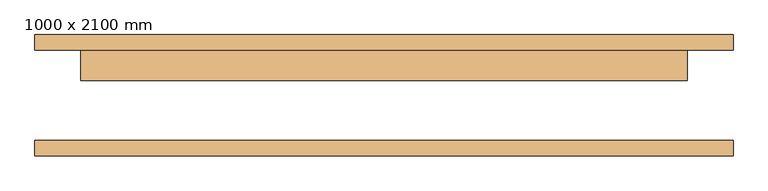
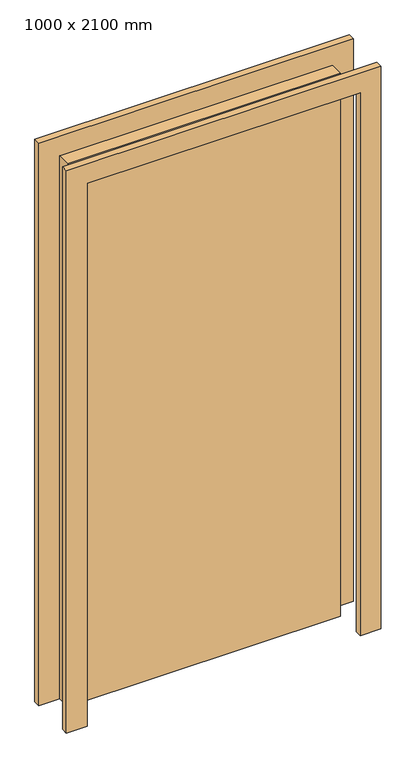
"""IFC4 building model written with IfcOpenShell, lengths in millimetres: door geometry, M_Folha única : 1000 x 2100 mm."""

import ifcopenshell
import ifcopenshell.guid

model = None  # the IFC model being written
_history = None  # IfcOwnerHistory: only IFC2X3 demands one
_inside = {}  # id of a spatial element -> (the spatial element, [elements in it])
_under = {}  # id of a project, library or spatial element -> (it, [spatial elements below it])
_declared = {}  # id of a project -> (the project, [libraries it declares])
_typed = {}  # id of a type object -> (the type object, [elements of that type])
_made_of = {}  # id of a material, layer set ... -> (it, [elements and type objects made of it])


def new_model(schema):
    """Start an empty IFC model of exactly this schema.

    Asked for "IFC4X3", IfcOpenShell would pick the latest addendum, in which some entities
    have other attributes; the version numbers below select the first issue.
    IFC2X3 requires an IfcOwnerHistory on every rooted entity: one is made here for all.
    """
    global model, _history
    if schema == "IFC4X3":
        model = ifcopenshell.file(schema_version=(4, 3, 0, 0))
    else:
        model = ifcopenshell.file(schema=schema)
    _inside.clear()
    _under.clear()
    _declared.clear()
    _typed.clear()
    _made_of.clear()
    _history = None
    if model.schema == "IFC2X3":
        org = make("IfcOrganization", Name="unknown")
        user = make(
            "IfcPersonAndOrganization",
            ThePerson=make("IfcPerson", FamilyName="unknown"),
            TheOrganization=org,
        )
        app = make(
            "IfcApplication",
            ApplicationDeveloper=org,
            Version="unknown",
            ApplicationFullName="unknown",
            ApplicationIdentifier="unknown",
        )
        _history = make(
            "IfcOwnerHistory",
            OwningUser=user,
            OwningApplication=app,
            ChangeAction="ADDED",
            CreationDate=0,
        )
    return model


def make(cls, **values):
    """One entity of the class cls with the attributes given. An attribute that is None is left unset."""
    return model.create_entity(
        cls, **{name: value for name, value in values.items() if value is not None}
    )


def rooted(cls, **values):
    """An entity with a GlobalId (a new one), such as an element, a storey or a relation."""
    return make(cls, GlobalId=ifcopenshell.guid.new(), OwnerHistory=_history, **values)


def si_unit(unit_type, name, prefix=None):
    """IfcSIUnit, for example si_unit("LENGTHUNIT", "METRE", prefix="MILLI")."""
    return make("IfcSIUnit", UnitType=unit_type, Prefix=prefix, Name=name)


def assignment(units):
    """IfcUnitAssignment: the units of a project."""
    return None if units is None else make("IfcUnitAssignment", Units=units)


def point(xyz):
    """IfcCartesianPoint."""
    return None if xyz is None else make("IfcCartesianPoint", Coordinates=xyz)


def direction(xyz):
    """IfcDirection."""
    return None if xyz is None else make("IfcDirection", DirectionRatios=xyz)


def frame(location, z_axis=None, x_axis=None):
    """IfcAxis2Placement3D, a coordinate frame: its origin and axes. An axis left out is left unset."""
    return make(
        "IfcAxis2Placement3D",
        Location=point(location),
        Axis=direction(z_axis),
        RefDirection=direction(x_axis),
    )


def origin():
    """The frame at (0, 0, 0) with its axes left unset."""
    return frame((0.0, 0.0, 0.0))


def origin_with_axes():
    """The frame at (0, 0, 0) with the z axis (0, 0, 1) and the x axis (1, 0, 0) written out."""
    return frame((0.0, 0.0, 0.0), z_axis=(0.0, 0.0, 1.0), x_axis=(1.0, 0.0, 0.0))


def place(relative_to, where):
    """IfcLocalPlacement: puts the frame where relative to a parent placement (None: the world)."""
    return make(
        "IfcLocalPlacement", PlacementRelTo=relative_to, RelativePlacement=where
    )


def context(
    kind, dimensions, precision=None, world=None, true_north=None, identifier=None
):
    """IfcGeometricRepresentationContext, for example the 3D "Model" context."""
    return make(
        "IfcGeometricRepresentationContext",
        ContextIdentifier=identifier,
        ContextType=kind,
        CoordinateSpaceDimension=dimensions,
        Precision=precision,
        WorldCoordinateSystem=world,
        TrueNorth=true_north,
    )


def project(units=None, contexts=None):
    """IfcProject with its units and contexts."""
    return rooted(
        "IfcProject",
        Name="project",
        RepresentationContexts=contexts,
        UnitsInContext=assignment(units),
    )


def spatial(cls, under=None, at=None, **own):
    """A site, building, storey or space (cls), placed at a placement, below another one or the project."""
    s = rooted(cls, ObjectPlacement=at, **own)
    if under is not None:
        _under.setdefault(under.id(), (under, []))[1].append(s)
    return s


def polyline(points):
    """IfcPolyline through the points."""
    return make("IfcPolyline", Points=[point(p) for p in points])


def outline(outer, holes=None, kind="AREA"):
    """IfcArbitraryClosedProfileDef: a profile drawn as a closed curve; with holes, ...WithVoids."""
    if holes is None:
        return make("IfcArbitraryClosedProfileDef", ProfileType=kind, OuterCurve=outer)
    return make(
        "IfcArbitraryProfileDefWithVoids",
        ProfileType=kind,
        OuterCurve=outer,
        InnerCurves=holes,
    )


def extrude(swept, where, along, depth):
    """IfcExtrudedAreaSolid: the profile swept, set in the frame where, extruded along a direction by depth."""
    return make(
        "IfcExtrudedAreaSolid",
        SweptArea=swept,
        Position=where,
        ExtrudedDirection=direction(along),
        Depth=depth,
    )


def shape(context_of_items, identifier, shape_type, items):
    """IfcShapeRepresentation: the items that make up one representation, for example the "Body"."""
    return make(
        "IfcShapeRepresentation",
        ContextOfItems=context_of_items,
        RepresentationIdentifier=identifier,
        RepresentationType=shape_type,
        Items=items,
    )


def source(mapping_origin, context_of_items, identifier, shape_type, items):
    """IfcRepresentationMap: a shape defined once, which mapped items show again and again."""
    return make(
        "IfcRepresentationMap",
        MappingOrigin=mapping_origin,
        MappedRepresentation=shape(context_of_items, identifier, shape_type, items),
    )


def transform(
    local_origin,
    x_axis=None,
    y_axis=None,
    z_axis=None,
    scale=None,
    scale2=None,
    scale3=None,
    uniform=True,
):
    """IfcCartesianTransformationOperator3D, or its non-uniform kind. x_axis, y_axis, z_axis: its Axis1, 2, 3."""
    if uniform:
        return make(
            "IfcCartesianTransformationOperator3D",
            Axis1=direction(x_axis),
            Axis2=direction(y_axis),
            LocalOrigin=point(local_origin),
            Scale=scale,
            Axis3=direction(z_axis),
        )
    return make(
        "IfcCartesianTransformationOperator3DnonUniform",
        Axis1=direction(x_axis),
        Axis2=direction(y_axis),
        LocalOrigin=point(local_origin),
        Scale=scale,
        Axis3=direction(z_axis),
        Scale2=scale2,
        Scale3=scale3,
    )


def mapped(mapping_source, mapping_target):
    """IfcMappedItem: shows the shape of a source again, moved by a transform."""
    return make(
        "IfcMappedItem", MappingSource=mapping_source, MappingTarget=mapping_target
    )


def made_of(thing, what):
    """Note that an element or type object is made of a material, layer set ...; save() writes the relation."""
    if what is not None:
        _made_of.setdefault(what.id(), (what, []))[1].append(thing)
    return thing


def element(
    cls,
    number,
    at=None,
    inside=None,
    cuts=None,
    type_object=None,
    material=None,
    context=None,
    identifier="Body",
    shape_type=None,
    held_by="IfcProductDefinitionShape",
    body=None,
    shapes=None,
    **own,
):
    """One element of the class cls, such as IfcWall. Its Tag is "e" and its number.

    at: its placement. inside: the storey or other place that contains it. cuts: it is an
    opening in that element (IfcRelVoidsElement). A single representation is given by context,
    identifier, shape_type and body (its items); several are given by shapes. held_by: the class
    of the entity that holds the representations. save() writes the other relations.
    """
    e = rooted(cls, Tag="e%d" % number, ObjectPlacement=at, **own)
    if body is not None:
        shapes = [shape(context, identifier, shape_type, body)]
    if shapes is not None:
        e.Representation = make(held_by, Representations=shapes)
    if inside is not None:
        _inside.setdefault(inside.id(), (inside, []))[1].append(e)
    if cuts is not None:
        rooted(
            "IfcRelVoidsElement", RelatingBuildingElement=cuts, RelatedOpeningElement=e
        )
    if type_object is not None:
        _typed.setdefault(type_object.id(), (type_object, []))[1].append(e)
    return made_of(e, material)


def aggregate(whole, parts):
    """IfcRelAggregates: a whole, such as a stair, and the parts it consists of."""
    return rooted("IfcRelAggregates", RelatingObject=whole, RelatedObjects=parts)


def save(model, path):
    """Write the relations noted so far, then the file.

    IfcRelAggregates (storeys below a building ...), IfcRelContainedInSpatialStructure (elements
    in a storey), IfcRelDefinesByType, IfcRelAssociatesMaterial and IfcRelDeclares: one each for
    every whole, place, type object, material and project.
    """
    for whole, parts in _under.values():
        aggregate(whole, parts)
    for where, things in _inside.values():
        rooted(
            "IfcRelContainedInSpatialStructure",
            RelatedElements=things,
            RelatingStructure=where,
        )
    for kind, things in _typed.values():
        rooted("IfcRelDefinesByType", RelatedObjects=things, RelatingType=kind)
    for what, things in _made_of.values():
        rooted("IfcRelAssociatesMaterial", RelatedObjects=things, RelatingMaterial=what)
    for by, libraries in _declared.values():
        rooted("IfcRelDeclares", RelatingContext=by, RelatedDefinitions=libraries)
    model.write(path)


def door_1000_x_2100_mm_77822ca1(model_context):
    return source(origin(), model_context, "Body", "SweptSolid", [
        extrude(outline(polyline([(2176.0, -576.0), (0.0, -576.0), (0.0, -500.0), (2100.0, -500.0), (2100.0, 500.0), (0.0, 500.0), (0.0, 576.0), (2176.0, 576.0), (2176.0, -576.0)])), frame((0.0, 75.0, 0.0), z_axis=(0.0, 1.0, 0.0), x_axis=(0.0, 0.0, 1.0)), (0.0, 0.0, 1.0), 25.0),
        extrude(outline(polyline([(2176.0, 576.0), (2176.0, -576.0), (0.0, -576.0), (0.0, -500.0), (2100.0, -500.0), (2100.0, 500.0), (0.0, 500.0), (0.0, 576.0), (2176.0, 576.0)])), frame((0.0, -100.0, 0.0), z_axis=(0.0, 1.0, 0.0), x_axis=(0.0, 0.0, 1.0)), (0.0, 0.0, 1.0), 25.0),
        extrude(outline(polyline([(500.0, 24.0), (-500.0, 24.0), (-500.0, 75.0), (500.0, 75.0), (500.0, 24.0)])), origin_with_axes(), (0.0, 0.0, 1.0), 2100.0),
    ])


if __name__ == "__main__":
    model = new_model("IFC4")
    model_context = context("Model", 3, world=origin())
    ifc_project = project(units=[si_unit("LENGTHUNIT", "METRE", prefix="MILLI")], contexts=[model_context])
    site = spatial("IfcSite", under=ifc_project)
    building = spatial("IfcBuilding", under=site)
    placement = place(None, origin())
    door_1000_x_2100_mm_shape = door_1000_x_2100_mm_77822ca1(model_context)
    element("IfcDoor", 1, ObjectType="M_Folha única : 1000 x 2100 mm", at=placement, inside=building, context=model_context, shape_type="MappedRepresentation", body=[
        mapped(door_1000_x_2100_mm_shape, transform((0.0, 0.0, 0.0), x_axis=(1.0, 0.0, 0.0), y_axis=(0.0, 1.0, 0.0), z_axis=(0.0, 0.0, 1.0))),
    ])
    save(model, "model.ifc")
